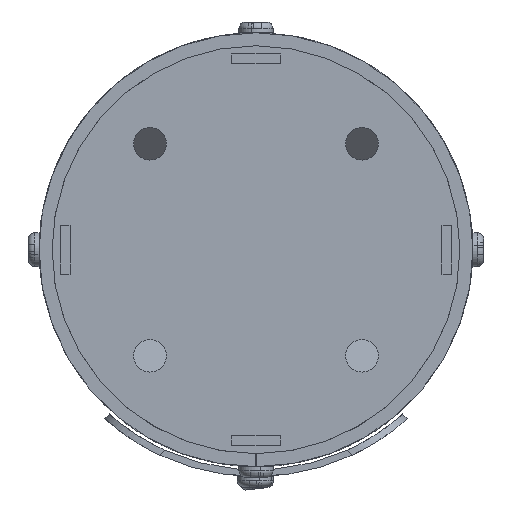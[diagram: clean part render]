
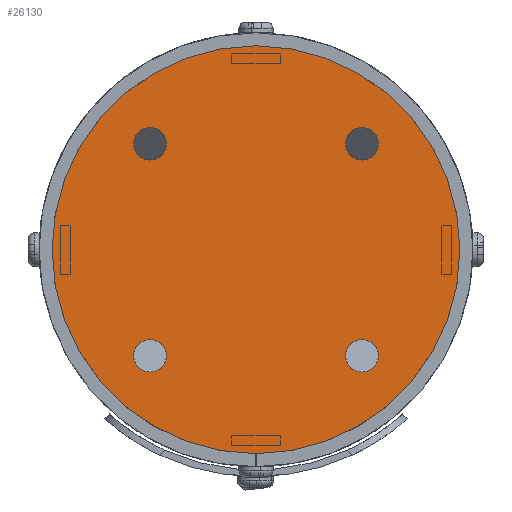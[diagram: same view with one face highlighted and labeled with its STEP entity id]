
A CAD part, front view. The second image highlights one B-rep face of the part: STEP entity #26130.
In plain terms, the highlighted planar face has unit normal (0, -1, 0).
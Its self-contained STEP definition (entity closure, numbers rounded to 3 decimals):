
#13 = VERTEX_POINT ( 'NONE', #8972 ) ;
#329 = CARTESIAN_POINT ( 'NONE',  ( -32.5, 0., 32.5 ) ) ;
#812 = AXIS2_PLACEMENT_3D ( 'NONE', #4434, #27400, #14007 ) ;
#1446 = CIRCLE ( 'NONE', #15323, 62.5 ) ;
#1572 = FACE_BOUND ( 'NONE', #25474, .T. ) ;
#2886 = VERTEX_POINT ( 'NONE', #16686 ) ;
#3353 = EDGE_CURVE ( 'NONE', #31177, #15184, #8179, .T. ) ;
#3369 = CARTESIAN_POINT ( 'NONE',  ( 32.5, 0., -27.5 ) ) ;
#3898 = FACE_BOUND ( 'NONE', #23281, .T. ) ;
#3904 = AXIS2_PLACEMENT_3D ( 'NONE', #329, #20759, #18232 ) ;
#4434 = CARTESIAN_POINT ( 'NONE',  ( 0., 0., 0. ) ) ;
#4502 = CIRCLE ( 'NONE', #812, 62.5 ) ;
#4947 = ORIENTED_EDGE ( 'NONE', *, *, #26940, .F. ) ;
#5943 = EDGE_CURVE ( 'NONE', #15184, #31177, #17239, .T. ) ;
#6088 = CARTESIAN_POINT ( 'NONE',  ( -32.5, 0., 27.5 ) ) ;
#6264 = CARTESIAN_POINT ( 'NONE',  ( 32.5, 0., 37.5 ) ) ;
#6402 = EDGE_CURVE ( 'NONE', #13, #14531, #10900, .T. ) ;
#8107 = VERTEX_POINT ( 'NONE', #8889 ) ;
#8179 = CIRCLE ( 'NONE', #12901, 5. ) ;
#8279 = DIRECTION ( 'NONE',  ( 0., 0., 1. ) ) ;
#8607 = FACE_OUTER_BOUND ( 'NONE', #16940, .T. ) ;
#8889 = CARTESIAN_POINT ( 'NONE',  ( 32.5, 0., -37.5 ) ) ;
#8972 = CARTESIAN_POINT ( 'NONE',  ( -32.5, 0., -27.5 ) ) ;
#9196 = CIRCLE ( 'NONE', #25868, 5. ) ;
#9301 = CIRCLE ( 'NONE', #32316, 5. ) ;
#9436 = CIRCLE ( 'NONE', #22281, 5. ) ;
#9588 = CARTESIAN_POINT ( 'NONE',  ( 32.5, 0., 27.5 ) ) ;
#10194 = DIRECTION ( 'NONE',  ( 0., 0., 1. ) ) ;
#10900 = CIRCLE ( 'NONE', #19432, 5. ) ;
#11017 = CARTESIAN_POINT ( 'NONE',  ( 32.5, 0., -32.5 ) ) ;
#12467 = AXIS2_PLACEMENT_3D ( 'NONE', #31251, #17989, #8279 ) ;
#12901 = AXIS2_PLACEMENT_3D ( 'NONE', #17130, #27375, #17644 ) ;
#13383 = CARTESIAN_POINT ( 'NONE',  ( 32.5, 0., 32.5 ) ) ;
#13699 = DIRECTION ( 'NONE',  ( 0., 1., 0. ) ) ;
#13803 = VERTEX_POINT ( 'NONE', #3369 ) ;
#14007 = DIRECTION ( 'NONE',  ( 0., 0., 1. ) ) ;
#14107 = PLANE ( 'NONE',  #20019 ) ;
#14458 = DIRECTION ( 'NONE',  ( 0., 1., 0. ) ) ;
#14531 = VERTEX_POINT ( 'NONE', #27628 ) ;
#15184 = VERTEX_POINT ( 'NONE', #6088 ) ;
#15323 = AXIS2_PLACEMENT_3D ( 'NONE', #16980, #14458, #30063 ) ;
#15726 = DIRECTION ( 'NONE',  ( 0., 0., 1. ) ) ;
#16016 = DIRECTION ( 'NONE',  ( 0., 1., 0. ) ) ;
#16677 = CARTESIAN_POINT ( 'NONE',  ( -32.5, 0., -32.5 ) ) ;
#16686 = CARTESIAN_POINT ( 'NONE',  ( 0., 0., 62.5 ) ) ;
#16940 = EDGE_LOOP ( 'NONE', ( #4947, #19230 ) ) ;
#16980 = CARTESIAN_POINT ( 'NONE',  ( 0., 0., 0. ) ) ;
#17130 = CARTESIAN_POINT ( 'NONE',  ( -32.5, 0., 32.5 ) ) ;
#17239 = CIRCLE ( 'NONE', #3904, 5. ) ;
#17644 = DIRECTION ( 'NONE',  ( 0., 0., 1. ) ) ;
#17989 = DIRECTION ( 'NONE',  ( 0., 1., 0. ) ) ;
#18232 = DIRECTION ( 'NONE',  ( 0., 0., 1. ) ) ;
#18818 = DIRECTION ( 'NONE',  ( 0., 1., 0. ) ) ;
#19230 = ORIENTED_EDGE ( 'NONE', *, *, #31653, .F. ) ;
#19432 = AXIS2_PLACEMENT_3D ( 'NONE', #22919, #33160, #10194 ) ;
#19463 = FACE_BOUND ( 'NONE', #24831, .T. ) ;
#19858 = DIRECTION ( 'NONE',  ( 0., 0., 1. ) ) ;
#20019 = AXIS2_PLACEMENT_3D ( 'NONE', #29222, #18818, #29062 ) ;
#20152 = ORIENTED_EDGE ( 'NONE', *, *, #24206, .T. ) ;
#20278 = ORIENTED_EDGE ( 'NONE', *, *, #32481, .T. ) ;
#20411 = CARTESIAN_POINT ( 'NONE',  ( 0., 0., -62.5 ) ) ;
#20759 = DIRECTION ( 'NONE',  ( 0., 1., 0. ) ) ;
#20885 = DIRECTION ( 'NONE',  ( 0., 0., 1. ) ) ;
#21048 = CARTESIAN_POINT ( 'NONE',  ( 32.5, 0., 32.5 ) ) ;
#21344 = VERTEX_POINT ( 'NONE', #6264 ) ;
#21369 = ORIENTED_EDGE ( 'NONE', *, *, #3353, .T. ) ;
#21382 = ORIENTED_EDGE ( 'NONE', *, *, #23856, .T. ) ;
#21652 = ORIENTED_EDGE ( 'NONE', *, *, #5943, .T. ) ;
#21866 = DIRECTION ( 'NONE',  ( 0., 1., 0. ) ) ;
#22010 = EDGE_LOOP ( 'NONE', ( #23530, #27969 ) ) ;
#22281 = AXIS2_PLACEMENT_3D ( 'NONE', #11017, #13699, #29116 ) ;
#22919 = CARTESIAN_POINT ( 'NONE',  ( -32.5, 0., -32.5 ) ) ;
#23281 = EDGE_LOOP ( 'NONE', ( #21382, #20152 ) ) ;
#23530 = ORIENTED_EDGE ( 'NONE', *, *, #6402, .T. ) ;
#23596 = DIRECTION ( 'NONE',  ( 0., 1., 0. ) ) ;
#23856 = EDGE_CURVE ( 'NONE', #21344, #24423, #29031, .T. ) ;
#24206 = EDGE_CURVE ( 'NONE', #24423, #21344, #9196, .T. ) ;
#24423 = VERTEX_POINT ( 'NONE', #9588 ) ;
#24831 = EDGE_LOOP ( 'NONE', ( #27639, #20278 ) ) ;
#25474 = EDGE_LOOP ( 'NONE', ( #21369, #21652 ) ) ;
#25868 = AXIS2_PLACEMENT_3D ( 'NONE', #21048, #16016, #20885 ) ;
#25998 = EDGE_CURVE ( 'NONE', #13803, #8107, #26942, .T. ) ;
#26130 = ADVANCED_FACE ( 'NONE', ( #1572, #3898, #19463, #29691, #8607 ), #14107, .F. ) ;
#26940 = EDGE_CURVE ( 'NONE', #30054, #2886, #4502, .T. ) ;
#26942 = CIRCLE ( 'NONE', #12467, 5. ) ;
#27375 = DIRECTION ( 'NONE',  ( 0., 1., 0. ) ) ;
#27400 = DIRECTION ( 'NONE',  ( 0., 1., 0. ) ) ;
#27445 = EDGE_CURVE ( 'NONE', #14531, #13, #9301, .T. ) ;
#27628 = CARTESIAN_POINT ( 'NONE',  ( -32.5, 0., -37.5 ) ) ;
#27639 = ORIENTED_EDGE ( 'NONE', *, *, #25998, .T. ) ;
#27969 = ORIENTED_EDGE ( 'NONE', *, *, #27445, .T. ) ;
#29031 = CIRCLE ( 'NONE', #32203, 5. ) ;
#29062 = DIRECTION ( 'NONE',  ( 0., 0., 1. ) ) ;
#29116 = DIRECTION ( 'NONE',  ( 0., 0., 1. ) ) ;
#29222 = CARTESIAN_POINT ( 'NONE',  ( 0., 0., 0. ) ) ;
#29691 = FACE_BOUND ( 'NONE', #22010, .T. ) ;
#30054 = VERTEX_POINT ( 'NONE', #20411 ) ;
#30063 = DIRECTION ( 'NONE',  ( 0., 0., 1. ) ) ;
#31177 = VERTEX_POINT ( 'NONE', #32514 ) ;
#31251 = CARTESIAN_POINT ( 'NONE',  ( 32.5, 0., -32.5 ) ) ;
#31653 = EDGE_CURVE ( 'NONE', #2886, #30054, #1446, .T. ) ;
#32203 = AXIS2_PLACEMENT_3D ( 'NONE', #13383, #23596, #15726 ) ;
#32316 = AXIS2_PLACEMENT_3D ( 'NONE', #16677, #21866, #19858 ) ;
#32481 = EDGE_CURVE ( 'NONE', #8107, #13803, #9436, .T. ) ;
#32514 = CARTESIAN_POINT ( 'NONE',  ( -32.5, 0., 37.5 ) ) ;
#33160 = DIRECTION ( 'NONE',  ( 0., 1., 0. ) ) ;
